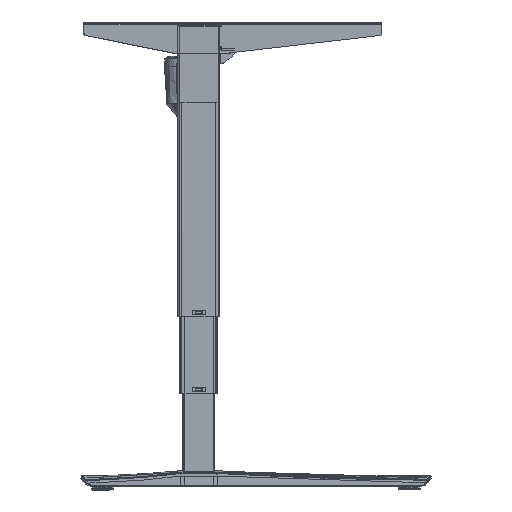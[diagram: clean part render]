
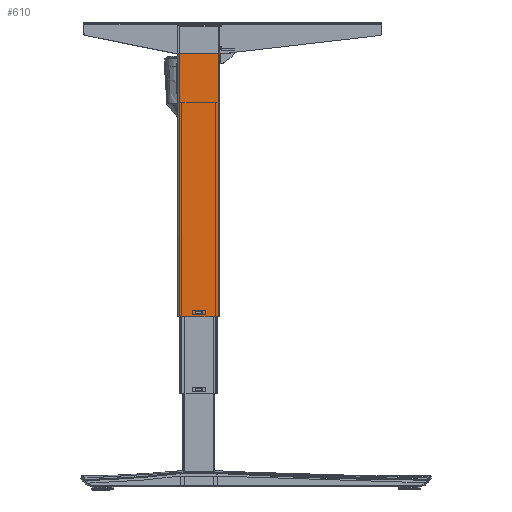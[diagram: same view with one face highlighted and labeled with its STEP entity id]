
A CAD part, left-side view. The second image highlights one B-rep face of the part: STEP entity #610.
In plain terms, the highlighted planar face has unit normal (-1, 0, 0).
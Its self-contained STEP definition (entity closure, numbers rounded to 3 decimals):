
#610 = ADVANCED_FACE ( 'NONE', ( #98154, #30407 ), #76865, .F. ) ;
#1767 = CARTESIAN_POINT ( 'NONE',  ( -30., 37., 556. ) ) ;
#4222 = LINE ( 'NONE', #112840, #78051 ) ;
#5802 = VECTOR ( 'NONE', #115600, 1000. ) ;
#6752 = LINE ( 'NONE', #115796, #110769 ) ;
#7367 = LINE ( 'NONE', #24329, #106838 ) ;
#7393 = EDGE_CURVE ( 'NONE', #34595, #59010, #98825, .T. ) ;
#15114 = ORIENTED_EDGE ( 'NONE', *, *, #75608, .T. ) ;
#17011 = DIRECTION ( 'NONE',  ( 0., 0., 1. ) ) ;
#24329 = CARTESIAN_POINT ( 'NONE',  ( -30., 40., 556. ) ) ;
#29734 = DIRECTION ( 'NONE',  ( 0., 1., 0. ) ) ;
#30407 = FACE_OUTER_BOUND ( 'NONE', #71121, .T. ) ;
#32173 = VERTEX_POINT ( 'NONE', #1767 ) ;
#34067 = VECTOR ( 'NONE', #112015, 1000. ) ;
#34595 = VERTEX_POINT ( 'NONE', #59962 ) ;
#37583 = CARTESIAN_POINT ( 'NONE',  ( -30., 6., 10. ) ) ;
#38077 = VECTOR ( 'NONE', #54126, 1000. ) ;
#39527 = ORIENTED_EDGE ( 'NONE', *, *, #121213, .T. ) ;
#41274 = EDGE_LOOP ( 'NONE', ( #49000, #39527, #15114, #123009 ) ) ;
#42048 = CARTESIAN_POINT ( 'NONE',  ( -30., 37., 0. ) ) ;
#44009 = CARTESIAN_POINT ( 'NONE',  ( -30., 37., 0. ) ) ;
#49000 = ORIENTED_EDGE ( 'NONE', *, *, #91145, .T. ) ;
#49119 = VECTOR ( 'NONE', #71317, 1000. ) ;
#49501 = VERTEX_POINT ( 'NONE', #89240 ) ;
#52259 = EDGE_CURVE ( 'NONE', #32173, #68290, #4222, .T. ) ;
#54126 = DIRECTION ( 'NONE',  ( 0., -1., 0. ) ) ;
#57280 = DIRECTION ( 'NONE',  ( 0., 0., -1. ) ) ;
#57557 = ORIENTED_EDGE ( 'NONE', *, *, #79335, .T. ) ;
#59010 = VERTEX_POINT ( 'NONE', #76583 ) ;
#59962 = CARTESIAN_POINT ( 'NONE',  ( -30., -37., 556. ) ) ;
#59987 = ORIENTED_EDGE ( 'NONE', *, *, #7393, .F. ) ;
#62070 = VERTEX_POINT ( 'NONE', #64516 ) ;
#62896 = CARTESIAN_POINT ( 'NONE',  ( -30., -6., 10. ) ) ;
#64516 = CARTESIAN_POINT ( 'NONE',  ( -30., -6., 6. ) ) ;
#68090 = EDGE_CURVE ( 'NONE', #62070, #122431, #6752, .T. ) ;
#68290 = VERTEX_POINT ( 'NONE', #42048 ) ;
#70086 = CARTESIAN_POINT ( 'NONE',  ( -30., -37., 561. ) ) ;
#71121 = EDGE_LOOP ( 'NONE', ( #59987, #88700, #95858, #57557 ) ) ;
#71125 = LINE ( 'NONE', #44009, #38077 ) ;
#71317 = DIRECTION ( 'NONE',  ( 0., 0., -1. ) ) ;
#75608 = EDGE_CURVE ( 'NONE', #93371, #62070, #117409, .T. ) ;
#76583 = CARTESIAN_POINT ( 'NONE',  ( -30., -37., 0. ) ) ;
#76865 = PLANE ( 'NONE',  #124081 ) ;
#78051 = VECTOR ( 'NONE', #57280, 1000. ) ;
#79335 = EDGE_CURVE ( 'NONE', #68290, #59010, #71125, .T. ) ;
#82221 = LINE ( 'NONE', #111592, #34067 ) ;
#85705 = DIRECTION ( 'NONE',  ( 1., 0., 0. ) ) ;
#86065 = CARTESIAN_POINT ( 'NONE',  ( -30., -6., 10. ) ) ;
#86961 = CARTESIAN_POINT ( 'NONE',  ( -30., 37., 561. ) ) ;
#88700 = ORIENTED_EDGE ( 'NONE', *, *, #90399, .F. ) ;
#89240 = CARTESIAN_POINT ( 'NONE',  ( -30., 6., 10. ) ) ;
#90399 = EDGE_CURVE ( 'NONE', #32173, #34595, #7367, .T. ) ;
#91145 = EDGE_CURVE ( 'NONE', #122431, #49501, #103675, .T. ) ;
#93371 = VERTEX_POINT ( 'NONE', #62896 ) ;
#95858 = ORIENTED_EDGE ( 'NONE', *, *, #52259, .T. ) ;
#98154 = FACE_BOUND ( 'NONE', #41274, .T. ) ;
#98825 = LINE ( 'NONE', #70086, #49119 ) ;
#102029 = CARTESIAN_POINT ( 'NONE',  ( -30., 6., 6. ) ) ;
#103675 = LINE ( 'NONE', #37583, #114319 ) ;
#106838 = VECTOR ( 'NONE', #121143, 1000. ) ;
#110769 = VECTOR ( 'NONE', #115373, 1000. ) ;
#111592 = CARTESIAN_POINT ( 'NONE',  ( -30., 6., 10. ) ) ;
#112015 = DIRECTION ( 'NONE',  ( 0., -1., 0. ) ) ;
#112840 = CARTESIAN_POINT ( 'NONE',  ( -30., 37., 561. ) ) ;
#114319 = VECTOR ( 'NONE', #17011, 1000. ) ;
#115373 = DIRECTION ( 'NONE',  ( 0., 1., 0. ) ) ;
#115600 = DIRECTION ( 'NONE',  ( 0., 0., -1. ) ) ;
#115796 = CARTESIAN_POINT ( 'NONE',  ( -30., 6., 6. ) ) ;
#117409 = LINE ( 'NONE', #86065, #5802 ) ;
#121143 = DIRECTION ( 'NONE',  ( 0., -1., 0. ) ) ;
#121213 = EDGE_CURVE ( 'NONE', #49501, #93371, #82221, .T. ) ;
#122431 = VERTEX_POINT ( 'NONE', #102029 ) ;
#123009 = ORIENTED_EDGE ( 'NONE', *, *, #68090, .T. ) ;
#124081 = AXIS2_PLACEMENT_3D ( 'NONE', #86961, #85705, #29734 ) ;
